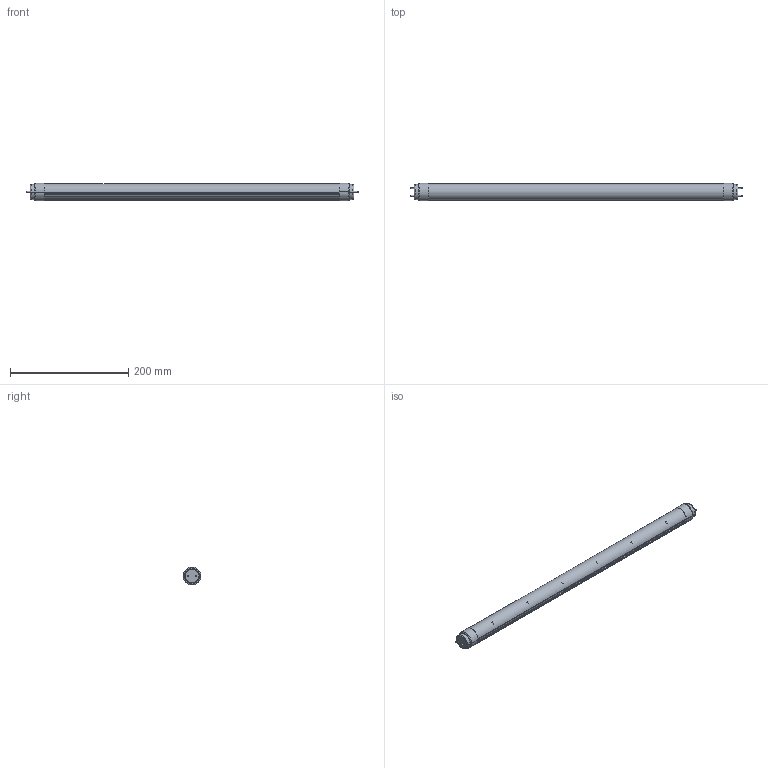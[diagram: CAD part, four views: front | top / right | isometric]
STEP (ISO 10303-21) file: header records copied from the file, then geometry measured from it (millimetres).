
FILE_DESCRIPTION(('CATIA V5 STEP Exchange'),'2;1');
FILE_NAME('G:\Aniket\College stuff\Internship - Embryyo\Project - 1\Light part design\CAD model\Final assembly of tubelight.stp','2015-12-03T17:07:49+00:00',('none'),('none'),'CATIA Version 5 Release 19 GA (IN-10)','CATIA V5 STEP AP203','none');
FILE_SCHEMA(('CONFIG_CONTROL_DESIGN'));
Length unit declared in the file: millimetre
Products named in the file (2): Product1; Product1.1
Assembly tree (25 placements, depth 3):
  Product1
    Product1.1  x2
      #62
      #338
    #877
    #1060
    #1083
    #2232
    #3512  x17
Bounding box: 561.11 x 30.18 x 30.18 mm (x, y, z)
Volume: 52651.3 mm3; surface area: 144356.6 mm2
Topology: 7 solids, 415 shells, 557 faces, 3621 edges, 3460 vertices
Faces by surface type: plane 336, cylinder 163, revolution 34, torus 24
Entity records: 5468 total; most frequent: CARTESIAN_POINT 1410, ORIENTED_EDGE 784, DIRECTION 587, EDGE_CURVE 487, VERTEX_POINT 384, AXIS2_PLACEMENT_3D 333, B_SPLINE_CURVE_WITH_KNOTS 190, CIRCLE 190
